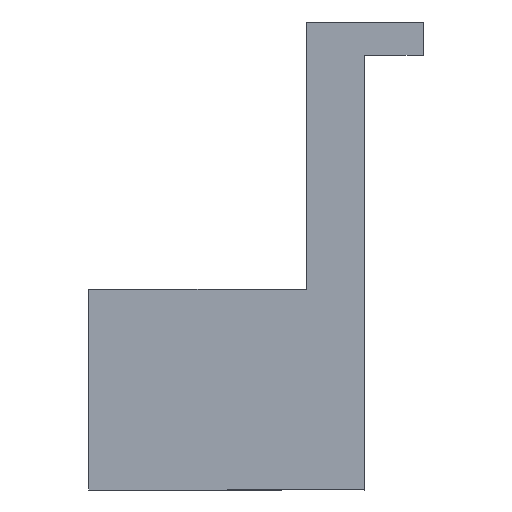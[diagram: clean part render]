
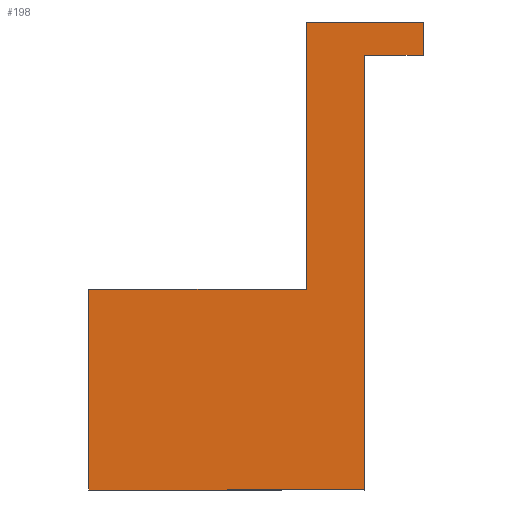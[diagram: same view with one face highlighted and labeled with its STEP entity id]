
A CAD part, front view. The second image highlights one B-rep face of the part: STEP entity #198.
In plain terms, the highlighted planar face has unit normal (0, -1, 0).
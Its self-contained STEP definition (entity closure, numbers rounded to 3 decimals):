
#139=AXIS2_PLACEMENT_3D('Plane Axis2P3D',#136,#137,#138) ;
#88=CARTESIAN_POINT('Vertex',(-3.5,-6.,0.)) ;
#93=CARTESIAN_POINT('Line Origine',(-11.75,-6.,0.)) ;
#97=CARTESIAN_POINT('Vertex',(-20.,-6.,0.)) ;
#136=CARTESIAN_POINT('Axis2P3D Location',(0.,-6.,0.)) ;
#141=CARTESIAN_POINT('Line Origine',(-3.5,-6.,28.)) ;
#145=CARTESIAN_POINT('Vertex',(-7.,-6.,28.)) ;
#147=CARTESIAN_POINT('Vertex',(0.,-6.,28.)) ;
#150=CARTESIAN_POINT('Line Origine',(-7.,-6.,20.)) ;
#154=CARTESIAN_POINT('Vertex',(-7.,-6.,12.)) ;
#157=CARTESIAN_POINT('Line Origine',(-13.5,-6.,12.)) ;
#161=CARTESIAN_POINT('Vertex',(-20.,-6.,12.)) ;
#164=CARTESIAN_POINT('Line Origine',(-20.,-6.,6.)) ;
#169=CARTESIAN_POINT('Line Origine',(-3.5,-6.,13.)) ;
#173=CARTESIAN_POINT('Vertex',(-3.5,-6.,26.)) ;
#176=CARTESIAN_POINT('Line Origine',(-1.75,-6.,26.)) ;
#180=CARTESIAN_POINT('Vertex',(0.,-6.,26.)) ;
#183=CARTESIAN_POINT('Line Origine',(0.,-6.,27.)) ;
#94=DIRECTION('Vector Direction',(-1.,0.,0.)) ;
#137=DIRECTION('Axis2P3D Direction',(0.,1.,0.)) ;
#138=DIRECTION('Axis2P3D XDirection',(-1.,0.,0.)) ;
#142=DIRECTION('Vector Direction',(1.,0.,0.)) ;
#151=DIRECTION('Vector Direction',(0.,0.,1.)) ;
#158=DIRECTION('Vector Direction',(1.,0.,0.)) ;
#165=DIRECTION('Vector Direction',(0.,0.,1.)) ;
#170=DIRECTION('Vector Direction',(0.,0.,-1.)) ;
#177=DIRECTION('Vector Direction',(-1.,0.,0.)) ;
#184=DIRECTION('Vector Direction',(0.,0.,-1.)) ;
#95=VECTOR('Line Direction',#94,1.) ;
#143=VECTOR('Line Direction',#142,1.) ;
#152=VECTOR('Line Direction',#151,1.) ;
#159=VECTOR('Line Direction',#158,1.) ;
#166=VECTOR('Line Direction',#165,1.) ;
#171=VECTOR('Line Direction',#170,1.) ;
#178=VECTOR('Line Direction',#177,1.) ;
#185=VECTOR('Line Direction',#184,1.) ;
#189=ORIENTED_EDGE('',*,*,#149,.F.) ;
#190=ORIENTED_EDGE('',*,*,#156,.F.) ;
#191=ORIENTED_EDGE('',*,*,#163,.F.) ;
#192=ORIENTED_EDGE('',*,*,#168,.F.) ;
#193=ORIENTED_EDGE('',*,*,#99,.F.) ;
#194=ORIENTED_EDGE('',*,*,#175,.F.) ;
#195=ORIENTED_EDGE('',*,*,#182,.F.) ;
#196=ORIENTED_EDGE('',*,*,#187,.F.) ;
#198=ADVANCED_FACE('PartBody',(#197),#140,.F.) ;
#99=EDGE_CURVE('',#89,#98,#96,.T.) ;
#149=EDGE_CURVE('',#146,#148,#144,.T.) ;
#156=EDGE_CURVE('',#155,#146,#153,.T.) ;
#163=EDGE_CURVE('',#162,#155,#160,.T.) ;
#168=EDGE_CURVE('',#98,#162,#167,.T.) ;
#175=EDGE_CURVE('',#174,#89,#172,.T.) ;
#182=EDGE_CURVE('',#181,#174,#179,.T.) ;
#187=EDGE_CURVE('',#148,#181,#186,.T.) ;
#188=EDGE_LOOP('',(#189,#190,#191,#192,#193,#194,#195,#196)) ;
#197=FACE_OUTER_BOUND('',#188,.T.) ;
#96=LINE('Line',#93,#95) ;
#144=LINE('Line',#141,#143) ;
#153=LINE('Line',#150,#152) ;
#160=LINE('Line',#157,#159) ;
#167=LINE('Line',#164,#166) ;
#172=LINE('Line',#169,#171) ;
#179=LINE('Line',#176,#178) ;
#186=LINE('Line',#183,#185) ;
#140=PLANE('',#139) ;
#89=VERTEX_POINT('',#88) ;
#98=VERTEX_POINT('',#97) ;
#146=VERTEX_POINT('',#145) ;
#148=VERTEX_POINT('',#147) ;
#155=VERTEX_POINT('',#154) ;
#162=VERTEX_POINT('',#161) ;
#174=VERTEX_POINT('',#173) ;
#181=VERTEX_POINT('',#180) ;
